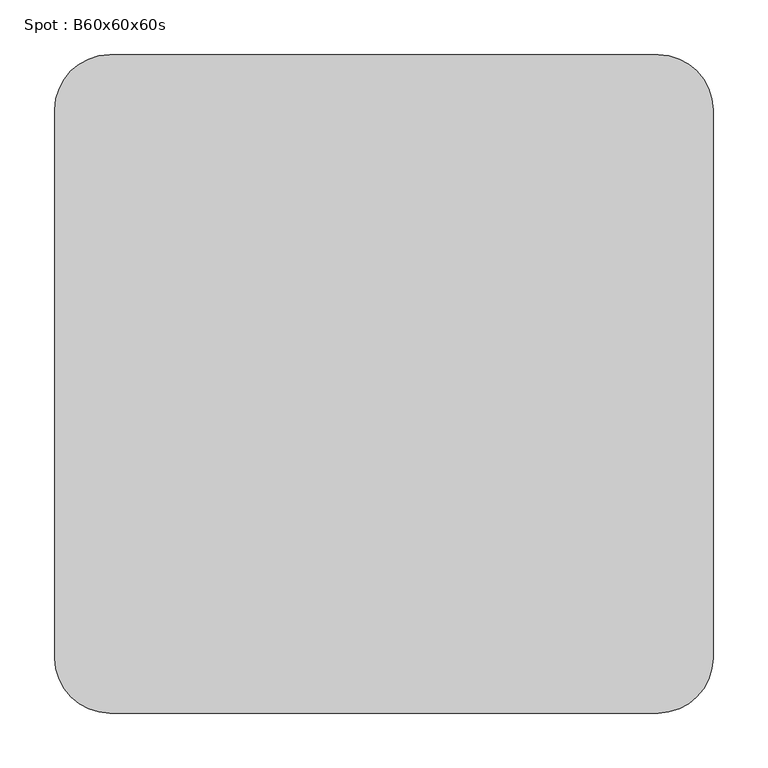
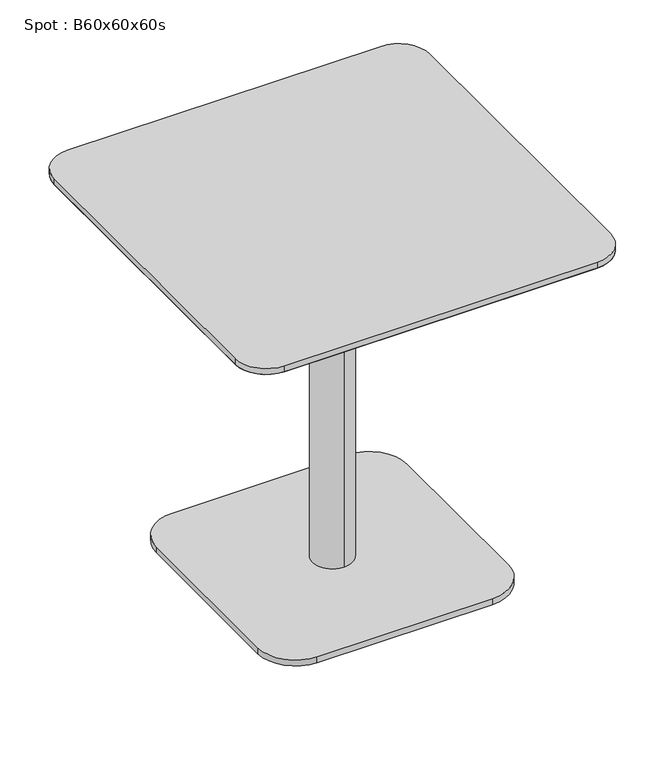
"""IFC4 building model written with IfcOpenShell, lengths in millimetres: furniture geometry, Spot : B60x60x60s."""

from ifc_helpers import new_model, si_unit, point, frame, frame_2d, origin, origin_with_axes, place, context, project, spatial, polyline, circle_curve, trimmed, segment, composite_curve, outline, extrude, source, transform, mapped, element, save
from ifc_brep_helpers import plane_surface, cylinder_surface, revolved_surface, advanced_brep


def spot_b60x60x60s_f05c2b11(model_context):
    return source(origin(), model_context, "Body", "SolidModel", [
        advanced_brep(
        [(-250.0, -250.0, 578.0), (-250.0, 250.0, 578.0), (250.0, 250.0, 578.0), (250.0, -250.0, 578.0), (-300.0, -250.0, 590.0), (-250.0, -300.0, 590.0), (250.0, -300.0, 590.0), (300.0, -250.0, 590.0), (300.0, 250.0, 590.0), (250.0, 300.0, 590.0), (-250.0, 300.0, 590.0), (-300.0, 250.0, 590.0)],
        [
            (0, 1),
            (1, 2),
            (2, 3),
            (3, 0),
            (4, 5, circle_curve(frame((-250.0, -250.0, 590.0), z_axis=(0.0, 0.0, 1.0), x_axis=(0.0, -1.0, 0.0)), 50.0)),
            (5, 6),
            (6, 7, circle_curve(frame((250.0, -250.0, 590.0), z_axis=(0.0, 0.0, 1.0), x_axis=(1.0, 0.0, 0.0)), 50.0)),
            (7, 8),
            (8, 9, circle_curve(frame((250.0, 250.0, 590.0), z_axis=(0.0, 0.0, 1.0), x_axis=(0.0, 1.0, 0.0)), 50.0)),
            (9, 10),
            (10, 11, circle_curve(frame((-250.0, 250.0, 590.0), z_axis=(0.0, 0.0, 1.0), x_axis=(-1.0, 0.0, 0.0)), 50.0)),
            (11, 4),
            (4, 0),
            (0, 5),
            (3, 6),
            (3, 7),
            (2, 8),
            (2, 9),
            (1, 10),
            (1, 11),
        ],
        [
            plane_surface(frame((0.0, 0.0, 578.0), z_axis=(0.0, 0.0, -1.0), x_axis=(-1.0, 0.0, 0.0))),
            plane_surface(frame((0.0, 0.0, 590.0), z_axis=(0.0, 0.0, 1.0), x_axis=(-1.0, 0.0, 0.0))),
            revolved_surface(polyline([(-250.0, -250.0, 578.0), (-250.0, -300.0, 590.0)]), (-250.0, -250.0, 578.0), (0.0, 0.0, 1.0)),
            plane_surface(frame((0.0, -300.0, 590.0), z_axis=(0.0, -0.23337295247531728, -0.9723873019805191), x_axis=(-1.0, 0.0, 0.0))),
            revolved_surface(polyline([(250.0, -250.0, 578.0), (300.0, -250.0, 590.0)]), (250.0, -250.0, 578.0), (0.0, 0.0, 1.0)),
            plane_surface(frame((300.0, 0.0, 590.0), z_axis=(0.23337295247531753, 0.0, -0.9723873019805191), x_axis=(0.0, -1.0, 0.0))),
            revolved_surface(polyline([(250.0, 250.0, 578.0), (250.0, 300.0, 590.0)]), (250.0, 250.0, 578.0), (0.0, 0.0, 1.0)),
            plane_surface(frame((0.0, 300.0, 590.0), z_axis=(0.0, 0.23337295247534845, -0.9723873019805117), x_axis=(1.0, 0.0, 0.0))),
            revolved_surface(polyline([(-250.0, 250.0, 578.0), (-300.0, 250.0, 590.0)]), (-250.0, 250.0, 578.0), (0.0, 0.0, 1.0)),
            plane_surface(frame((-300.0, 0.0, 590.0), z_axis=(-0.233372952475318, 0.0, -0.972387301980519), x_axis=(0.0, 1.0, 0.0))),
        ],
        [
            (0, [[1, 2, 3, 4]]),
            (1, [[5, 6, 7, 8, 9, 10, 11, 12]]),
            (2, [[-5, 13, 14]]),
            (3, [[-6, -14, -4, 15]]),
            (4, [[-7, -15, 16]]),
            (5, [[-8, -16, -3, 17]]),
            (6, [[-9, -17, 18]]),
            (7, [[-10, -18, -2, 19]]),
            (8, [[-11, -19, 20]]),
            (9, [[-12, -20, -1, -13]]),
        ],
    ),
        extrude(outline(composite_curve([segment(trimmed(circle_curve(frame_2d((250.0, 250.0)), 50.0), [point((250.0, 300.0))], [point((300.0, 250.0))], False, "CARTESIAN"), True, "CONTINUOUS"), segment(polyline([(300.0, 250.0), (300.0, -250.0)]), True, "CONTINUOUS"), segment(trimmed(circle_curve(frame_2d((250.0, -250.0)), 50.0), [point((300.0, -250.0))], [point((250.0, -300.0))], False, "CARTESIAN"), True, "CONTINUOUS"), segment(polyline([(250.0, -300.0), (-250.0, -300.0)]), True, "CONTINUOUS"), segment(trimmed(circle_curve(frame_2d((-250.0, -250.0)), 50.0), [point((-250.0, -300.0))], [point((-300.0, -250.0))], False, "CARTESIAN"), True, "CONTINUOUS"), segment(polyline([(-300.0, -250.0), (-300.0, 250.0)]), True, "CONTINUOUS"), segment(trimmed(circle_curve(frame_2d((-250.0, 250.0)), 50.0), [point((-300.0, 250.0))], [point((-250.0, 300.0))], False, "CARTESIAN"), True, "CONTINUOUS"), segment(polyline([(-250.0, 300.0), (250.0, 300.0)]), True, "CONTINUOUS")], self_intersect=False)), frame((0.0, 0.0, 590.0), z_axis=(0.0, 0.0, 1.0), x_axis=(1.0, 0.0, 0.0)), (0.0, 0.0, 1.0), 10.0),
        extrude(outline(composite_curve([segment(trimmed(circle_curve(frame_2d((140.0, 140.0)), 60.0), [point((140.0, 200.0))], [point((200.0, 140.0))], False, "CARTESIAN"), True, "CONTINUOUS"), segment(polyline([(200.0, 140.0), (200.0, -140.0)]), True, "CONTINUOUS"), segment(trimmed(circle_curve(frame_2d((140.0, -140.0)), 60.0), [point((200.0, -140.0))], [point((140.0, -200.0))], False, "CARTESIAN"), True, "CONTINUOUS"), segment(polyline([(140.0, -200.0), (-140.0, -200.0)]), True, "CONTINUOUS"), segment(trimmed(circle_curve(frame_2d((-140.0, -140.0)), 60.0), [point((-140.0, -200.0))], [point((-200.0, -140.0))], False, "CARTESIAN"), True, "CONTINUOUS"), segment(polyline([(-200.0, -140.0), (-200.0, 140.0)]), True, "CONTINUOUS"), segment(trimmed(circle_curve(frame_2d((-140.0, 140.0)), 60.0), [point((-200.0, 140.0))], [point((-140.0, 200.0))], False, "CARTESIAN"), True, "CONTINUOUS"), segment(polyline([(-140.0, 200.0), (140.0, 200.0)]), True, "CONTINUOUS")], self_intersect=False)), origin_with_axes(), (0.0, 0.0, 1.0), 10.0),
        advanced_brep(
        [(0.0, 32.0, 10.0), (0.0, -32.0, 10.0), (0.0, -32.0, 547.406916), (0.0, 32.0, 547.406916), (0.0, 0.0, 10.0), (0.0, 150.0, 578.0), (0.0, -150.0, 578.0), (0.0, 0.0, 578.0), (0.0, 150.0, 566.7213673), (0.0, -150.0, 566.7213673)],
        [
            (0, 1, circle_curve(frame((0.0, 0.0, 10.0), z_axis=(0.0, 0.0, 1.0), x_axis=(0.0, -1.0, 0.0)), 32.0)),
            (1, 2),
            (2, 3, circle_curve(frame((0.0, 0.0, 547.406916), z_axis=(0.0, 0.0, -1.0), x_axis=(0.0, -1.0, 0.0)), 32.0)),
            (3, 0),
            (1, 0, circle_curve(frame((0.0, 0.0, 10.0), z_axis=(0.0, 0.0, 1.0), x_axis=(0.0, -1.0, 0.0)), 32.0)),
            (3, 2, circle_curve(frame((0.0, 0.0, 547.406916), z_axis=(0.0, 0.0, -1.0), x_axis=(0.0, -1.0, 0.0)), 32.0)),
            (4, 1),
            (0, 4),
            (5, 6, circle_curve(frame((0.0, 0.0, 578.0), z_axis=(0.0, 0.0, 1.0), x_axis=(0.0, -1.0, 0.0)), 150.0)),
            (6, 7),
            (7, 5),
            (6, 5, circle_curve(frame((0.0, 0.0, 578.0), z_axis=(0.0, 0.0, 1.0), x_axis=(0.0, -1.0, 0.0)), 150.0)),
            (8, 9, circle_curve(frame((0.0, 0.0, 566.7213673), z_axis=(0.0, 0.0, 1.0), x_axis=(0.0, -1.0, 0.0)), 150.0)),
            (9, 6),
            (5, 8),
            (9, 8, circle_curve(frame((0.0, 0.0, 566.7213673), z_axis=(0.0, 0.0, 1.0), x_axis=(0.0, -1.0, 0.0)), 150.0)),
            (2, 9),
            (8, 3),
        ],
        [
            cylinder_surface(frame((0.0, 0.0, 940.0), z_axis=(0.0, 0.0, -1.0), x_axis=(0.0, -1.0, 0.0)), 32.0),
            plane_surface(frame((0.0, 0.0, 10.0), z_axis=(0.0, 0.0, -1.0), x_axis=(0.0, -1.0, 0.0))),
            plane_surface(frame((0.0, 0.0, 578.0), z_axis=(0.0, 0.0, 1.0), x_axis=(0.0, -1.0, 0.0))),
            cylinder_surface(frame((0.0, 0.0, 940.0), z_axis=(0.0, 0.0, -1.0), x_axis=(0.0, -1.0, 0.0)), 150.0),
            revolved_surface(polyline([(0.0, -150.0, 566.7213673), (0.0, -32.0, 547.406916)]), (0.0, 0.0, 940.0), (0.0, 0.0, -1.0)),
        ],
        [
            (0, [[1, 2, 3, 4]]),
            (0, [[5, -4, 6, -2]]),
            (1, [[7, -1, 8]]),
            (1, [[-8, -5, -7]]),
            (2, [[9, 10, 11]]),
            (2, [[12, -11, -10]]),
            (3, [[13, 14, -9, 15]]),
            (3, [[16, -15, -12, -14]]),
            (4, [[-3, 17, -13, 18]]),
            (4, [[-6, -18, -16, -17]]),
        ],
    ),
        extrude(outline(polyline([(0.0, 0.0), (-20.0, 0.0), (-20.0, 20.0), (0.0, 20.0), (0.0, 0.0)])), origin_with_axes(), (0.0, 0.0, 1.0), 10.0),
    ])


if __name__ == "__main__":
    model = new_model("IFC4")
    model_context = context("Model", 3, world=origin())
    ifc_project = project(units=[si_unit("LENGTHUNIT", "METRE", prefix="MILLI")], contexts=[model_context])
    site = spatial("IfcSite", under=ifc_project)
    building = spatial("IfcBuilding", under=site)
    placement = place(None, origin())
    spot_b60x60x60s_shape = spot_b60x60x60s_f05c2b11(model_context)
    element("IfcFurniture", 1, ObjectType="Spot : B60x60x60s", at=placement, inside=building, context=model_context, shape_type="MappedRepresentation", body=[
        mapped(spot_b60x60x60s_shape, transform((0.0, 0.0, 0.0), x_axis=(1.0, 0.0, 0.0), y_axis=(0.0, 1.0, 0.0), z_axis=(0.0, 0.0, 1.0))),
    ])
    save(model, "model.ifc")
